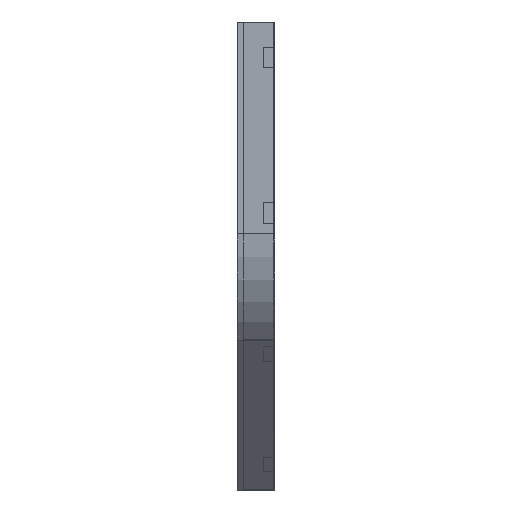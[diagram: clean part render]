
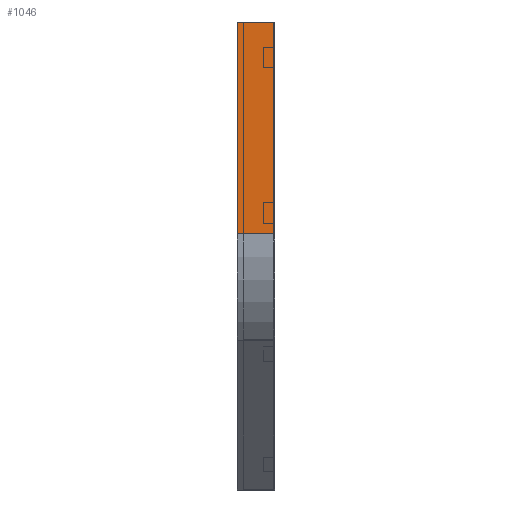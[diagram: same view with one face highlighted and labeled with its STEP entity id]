
A CAD part, left-side view. The second image highlights one B-rep face of the part: STEP entity #1046.
In plain terms, the highlighted planar face has unit normal (-1, 0, 0).
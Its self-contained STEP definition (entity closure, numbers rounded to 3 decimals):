
#31 = VECTOR ( 'NONE', #68, 1000. ) ;
#44 = DIRECTION ( 'NONE',  ( 0., 0., -1. ) ) ;
#68 = DIRECTION ( 'NONE',  ( 0., 0., -1. ) ) ;
#103 = ORIENTED_EDGE ( 'NONE', *, *, #616, .F. ) ;
#130 = VERTEX_POINT ( 'NONE', #1757 ) ;
#205 = DIRECTION ( 'NONE',  ( 1., 0., 0. ) ) ;
#224 = CARTESIAN_POINT ( 'NONE',  ( 0., 0., 0. ) ) ;
#252 = EDGE_CURVE ( 'NONE', #1290, #861, #779, .T. ) ;
#307 = CARTESIAN_POINT ( 'NONE',  ( 0., 75., 0. ) ) ;
#354 = CARTESIAN_POINT ( 'NONE',  ( 0., 75., -422.792 ) ) ;
#387 = CARTESIAN_POINT ( 'NONE',  ( 0., 0., 0. ) ) ;
#421 = ORIENTED_EDGE ( 'NONE', *, *, #252, .F. ) ;
#471 = DIRECTION ( 'NONE',  ( 0., 0., -1. ) ) ;
#500 = EDGE_LOOP ( 'NONE', ( #421, #103, #1804, #1143 ) ) ;
#593 = EDGE_CURVE ( 'NONE', #130, #1502, #742, .T. ) ;
#616 = EDGE_CURVE ( 'NONE', #130, #1290, #1630, .T. ) ;
#661 = DIRECTION ( 'NONE',  ( 0., -1., 0. ) ) ;
#696 = CARTESIAN_POINT ( 'NONE',  ( 0., 0., -422.792 ) ) ;
#742 = LINE ( 'NONE', #307, #1019 ) ;
#769 = CARTESIAN_POINT ( 'NONE',  ( 0., 0., 0. ) ) ;
#779 = LINE ( 'NONE', #769, #31 ) ;
#809 = CARTESIAN_POINT ( 'NONE',  ( 0., 0., -422.792 ) ) ;
#861 = VERTEX_POINT ( 'NONE', #809 ) ;
#933 = FACE_OUTER_BOUND ( 'NONE', #500, .T. ) ;
#1019 = VECTOR ( 'NONE', #471, 1000. ) ;
#1046 = ADVANCED_FACE ( 'NONE', ( #933 ), #1471, .F. ) ;
#1132 = LINE ( 'NONE', #696, #1795 ) ;
#1143 = ORIENTED_EDGE ( 'NONE', *, *, #1531, .T. ) ;
#1290 = VERTEX_POINT ( 'NONE', #387 ) ;
#1342 = CARTESIAN_POINT ( 'NONE',  ( 0., 0., 0. ) ) ;
#1471 = PLANE ( 'NONE',  #1703 ) ;
#1502 = VERTEX_POINT ( 'NONE', #354 ) ;
#1531 = EDGE_CURVE ( 'NONE', #1502, #861, #1132, .T. ) ;
#1630 = LINE ( 'NONE', #224, #1763 ) ;
#1693 = DIRECTION ( 'NONE',  ( 0., -1., 0. ) ) ;
#1703 = AXIS2_PLACEMENT_3D ( 'NONE', #1342, #205, #44 ) ;
#1757 = CARTESIAN_POINT ( 'NONE',  ( 0., 75., 0. ) ) ;
#1763 = VECTOR ( 'NONE', #661, 1000. ) ;
#1795 = VECTOR ( 'NONE', #1693, 1000. ) ;
#1804 = ORIENTED_EDGE ( 'NONE', *, *, #593, .T. ) ;
